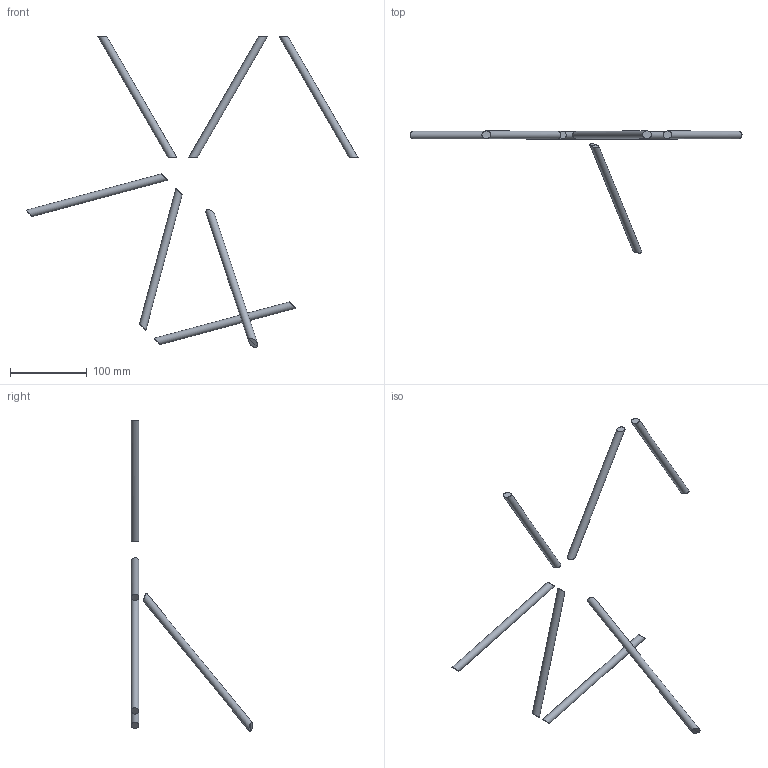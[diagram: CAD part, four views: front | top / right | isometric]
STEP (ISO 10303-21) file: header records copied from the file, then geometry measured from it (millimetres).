
FILE_DESCRIPTION(/* description */ (''),/* implementation_level */ '2;1');
FILE_NAME(/* name */ 'M:\Symbolen_NIEUW\STP\Corners\E20D\E20D-C001_111010001.stp',/* time_stamp */ '2017-11-16T14:21:17+01:00',/* author */ ('Kees'),/* organization */ (''),/* preprocessor_version */ 'ST-DEVELOPER v16.13',/* originating_system */ 'Autodesk Inventor 2018',/* authorisation */ '');
FILE_SCHEMA (('AUTOMOTIVE_DESIGN { 1 0 10303 214 3 1 1 }'));
Length unit declared in the file: millimetre
Products named in the file (1): 160008532
Bounding box: 431.84 x 158.19 x 404.42 mm (x, y, z)
Volume: 103503.4 mm3; surface area: 42711.8 mm2
Topology: 7 solids, 7 shells, 23 faces, 31 edges, 22 vertices
Faces by surface type: plane 16, cylinder 7
Full cylindrical faces by diameter (mm): 10 x7
Entity records: 461 total; most frequent: DIRECTION 82, CARTESIAN_POINT 58, AXIS2_PLACEMENT_3D 40, ORIENTED_EDGE 36, EDGE_LOOP 30, STYLED_ITEM 30, FACE_OUTER_BOUND 23, ADVANCED_FACE 23
